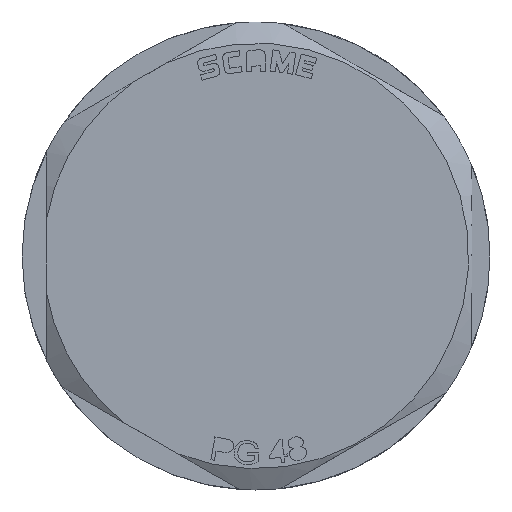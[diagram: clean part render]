
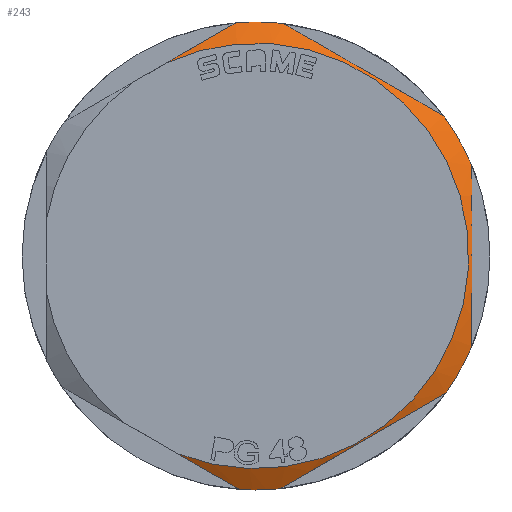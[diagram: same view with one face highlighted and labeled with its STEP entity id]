
A CAD part, top view. The second image highlights one B-rep face of the part: STEP entity #243.
In plain terms, the highlighted conical face has half-angle 60 degrees and reference radius 35 mm.
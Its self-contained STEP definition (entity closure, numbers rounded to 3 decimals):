
#142=CONICAL_SURFACE('',#1567,35.,60.);
#146=B_SPLINE_CURVE_WITH_KNOTS('',3,(#1968,#1969,#1970,#1971),
 .UNSPECIFIED.,.F.,.F.,(4,4),(0.,1.),.UNSPECIFIED.);
#147=B_SPLINE_CURVE_WITH_KNOTS('',3,(#1977,#1978,#1979,#1980),
 .UNSPECIFIED.,.F.,.F.,(4,4),(0.,1.),.UNSPECIFIED.);
#149=B_SPLINE_CURVE_WITH_KNOTS('',3,(#1998,#1999,#2000,#2001,#2002,#2003),
 .UNSPECIFIED.,.F.,.F.,(4,2,4),(0.,0.5,1.),.UNSPECIFIED.);
#150=B_SPLINE_CURVE_WITH_KNOTS('',3,(#2007,#2008,#2009,#2010,#2011,#2012),
 .UNSPECIFIED.,.F.,.F.,(4,2,4),(0.,0.5,1.),.UNSPECIFIED.);
#151=B_SPLINE_CURVE_WITH_KNOTS('',3,(#2016,#2017,#2018,#2019,#2020,#2021),
 .UNSPECIFIED.,.F.,.F.,(4,2,4),(0.,0.5,1.),.UNSPECIFIED.);
#243=ADVANCED_FACE('',(#322),#142,.T.);
#322=FACE_OUTER_BOUND('',#362,.T.);
#362=EDGE_LOOP('',(#467,#468,#469,#470,#471,#472,#473,#474,#475,#476));
#408=CIRCLE('',#1562,38.5);
#409=CIRCLE('',#1563,38.5);
#410=CIRCLE('',#1564,38.5);
#411=CIRCLE('',#1565,38.5);
#412=CIRCLE('',#1566,35.);
#467=ORIENTED_EDGE('',*,*,#1030,.F.);
#468=ORIENTED_EDGE('',*,*,#1031,.F.);
#469=ORIENTED_EDGE('',*,*,#1032,.F.);
#470=ORIENTED_EDGE('',*,*,#1033,.F.);
#471=ORIENTED_EDGE('',*,*,#1034,.F.);
#472=ORIENTED_EDGE('',*,*,#1035,.F.);
#473=ORIENTED_EDGE('',*,*,#1036,.F.);
#474=ORIENTED_EDGE('',*,*,#1021,.F.);
#475=ORIENTED_EDGE('',*,*,#1037,.F.);
#476=ORIENTED_EDGE('',*,*,#1024,.F.);
#786=VERTEX_POINT('',#1967);
#787=VERTEX_POINT('',#1972);
#788=VERTEX_POINT('',#1976);
#789=VERTEX_POINT('',#1981);
#794=VERTEX_POINT('',#1997);
#795=VERTEX_POINT('',#2004);
#796=VERTEX_POINT('',#2006);
#797=VERTEX_POINT('',#2013);
#798=VERTEX_POINT('',#2015);
#799=VERTEX_POINT('',#2022);
#1021=EDGE_CURVE('',#786,#787,#146,.T.);
#1024=EDGE_CURVE('',#788,#789,#147,.T.);
#1030=EDGE_CURVE('',#794,#788,#408,.T.);
#1031=EDGE_CURVE('',#795,#794,#149,.T.);
#1032=EDGE_CURVE('',#796,#795,#409,.T.);
#1033=EDGE_CURVE('',#797,#796,#150,.T.);
#1034=EDGE_CURVE('',#798,#797,#410,.T.);
#1035=EDGE_CURVE('',#799,#798,#151,.T.);
#1036=EDGE_CURVE('',#787,#799,#411,.T.);
#1037=EDGE_CURVE('',#789,#786,#412,.T.);
#1562=AXIS2_PLACEMENT_3D('',#1996,#1672,#1673);
#1563=AXIS2_PLACEMENT_3D('',#2005,#1674,#1675);
#1564=AXIS2_PLACEMENT_3D('',#2014,#1676,#1677);
#1565=AXIS2_PLACEMENT_3D('',#2023,#1678,#1679);
#1566=AXIS2_PLACEMENT_3D('',#2024,#1680,#1681);
#1567=AXIS2_PLACEMENT_3D('',#2025,#1682,#1683);
#1672=DIRECTION('',(0.,0.,-1.));
#1673=DIRECTION('',(1.,0.,0.));
#1674=DIRECTION('',(0.,0.,-1.));
#1675=DIRECTION('',(1.,0.,0.));
#1676=DIRECTION('',(0.,0.,-1.));
#1677=DIRECTION('',(-1.,0.,0.));
#1678=DIRECTION('',(0.,0.,-1.));
#1679=DIRECTION('',(1.,0.,0.));
#1680=DIRECTION('',(0.,0.,1.));
#1681=DIRECTION('',(1.,0.,0.));
#1682=DIRECTION('',(0.,0.,-1.));
#1683=DIRECTION('',(-1.,0.,0.));
#1967=CARTESIAN_POINT('',(-15.251,31.608,0.));
#1968=CARTESIAN_POINT('',(-15.251,31.608,0.));
#1969=CARTESIAN_POINT('',(-11.374,33.847,-0.23));
#1970=CARTESIAN_POINT('',(-7.563,36.047,-0.955));
#1971=CARTESIAN_POINT('',(-3.796,38.222,-2.021));
#1972=CARTESIAN_POINT('',(-3.796,38.222,-2.021));
#1976=CARTESIAN_POINT('',(-3.245,-38.541,-2.021));
#1977=CARTESIAN_POINT('',(-3.245,-38.541,-2.021));
#1978=CARTESIAN_POINT('',(-6.583,-36.614,-1.048));
#1979=CARTESIAN_POINT('',(-9.959,-34.665,-0.335));
#1980=CARTESIAN_POINT('',(-13.392,-32.683,0.));
#1981=CARTESIAN_POINT('',(-13.392,-32.683,0.));
#1996=CARTESIAN_POINT('',(-0.515,-0.138,-2.021));
#1997=CARTESIAN_POINT('',(3.429,-38.435,-2.021));
#1998=CARTESIAN_POINT('',(30.68,-22.703,-2.021));
#1999=CARTESIAN_POINT('',(26.196,-25.291,-0.799));
#2000=CARTESIAN_POINT('',(21.676,-27.901,-0.085));
#2001=CARTESIAN_POINT('',(12.534,-33.179,-0.075));
#2002=CARTESIAN_POINT('',(7.922,-35.842,-0.797));
#2003=CARTESIAN_POINT('',(3.429,-38.435,-2.021));
#2004=CARTESIAN_POINT('',(30.68,-22.703,-2.021));
#2005=CARTESIAN_POINT('',(-0.515,-0.138,-2.021));
#2006=CARTESIAN_POINT('',(35.,-15.003,-2.021));
#2007=CARTESIAN_POINT('',(35.,14.727,-2.021));
#2008=CARTESIAN_POINT('',(35.,9.825,-0.928));
#2009=CARTESIAN_POINT('',(35.,4.891,-0.301));
#2010=CARTESIAN_POINT('',(35.,-5.062,-0.293));
#2011=CARTESIAN_POINT('',(35.,-10.092,-0.926));
#2012=CARTESIAN_POINT('',(35.,-15.003,-2.021));
#2013=CARTESIAN_POINT('',(35.,14.727,-2.021));
#2014=CARTESIAN_POINT('',(-0.515,-0.138,-2.021));
#2015=CARTESIAN_POINT('',(30.328,22.904,-2.021));
#2016=CARTESIAN_POINT('',(4.018,38.094,-2.021));
#2017=CARTESIAN_POINT('',(8.353,35.592,-0.881));
#2018=CARTESIAN_POINT('',(12.718,33.072,-0.222));
#2019=CARTESIAN_POINT('',(21.533,27.982,-0.213));
#2020=CARTESIAN_POINT('',(25.986,25.412,-0.878));
#2021=CARTESIAN_POINT('',(30.328,22.904,-2.021));
#2022=CARTESIAN_POINT('',(4.018,38.094,-2.021));
#2023=CARTESIAN_POINT('',(-0.515,-0.138,-2.021));
#2024=CARTESIAN_POINT('',(-0.515,-0.138,0.));
#2025=CARTESIAN_POINT('',(-0.515,-0.138,0.));
